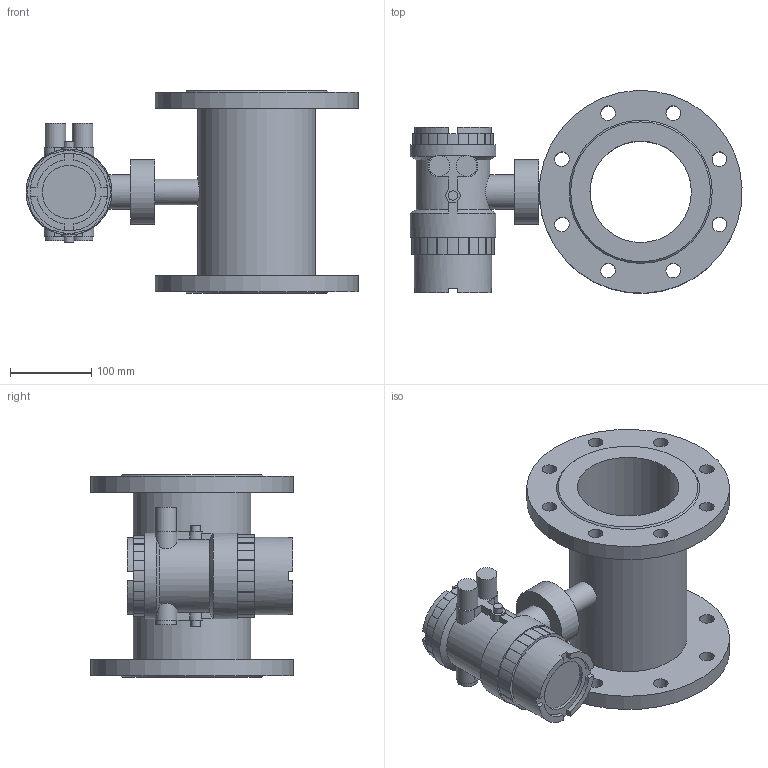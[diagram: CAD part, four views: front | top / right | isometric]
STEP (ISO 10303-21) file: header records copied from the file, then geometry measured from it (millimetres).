
FILE_DESCRIPTION( (''), '2;1');
FILE_NAME( 'QMKC_DN125.step', '2024-12-10T10:38:51+08:00', (''), (''), '', '', '');
FILE_SCHEMA (('AUTOMOTIVE_DESIGN { 1 0 10303 214 3 1 1 1 }'));
Length unit declared in the file: millimetre
Products named in the file (1): QMKC DN125
Bounding box: 409.13 x 249.76 x 250 mm (x, y, z)
Volume: 4075415.6 mm3; surface area: 493832 mm2
Topology: 1 solids, 1 shells, 215 faces, 580 edges, 389 vertices
Faces by surface type: plane 108, cylinder 101, cone 6
Full cylindrical faces by diameter (mm): 11.6 x2, 18 x16, 25.5 x4, 32 x1, 42 x1, 65.5 x1, 80 x1, 95.5 x1, 105.9 x2, 125 x1, 145 x1, 250 x2
Entity records: 6770 total; most frequent: CARTESIAN_POINT 1290, DIRECTION 1156, ORIENTED_EDGE 1070, EDGE_CURVE 535, AXIS2_PLACEMENT_3D 429, VERTEX_POINT 379, EDGE_LOOP 306, LINE 298
